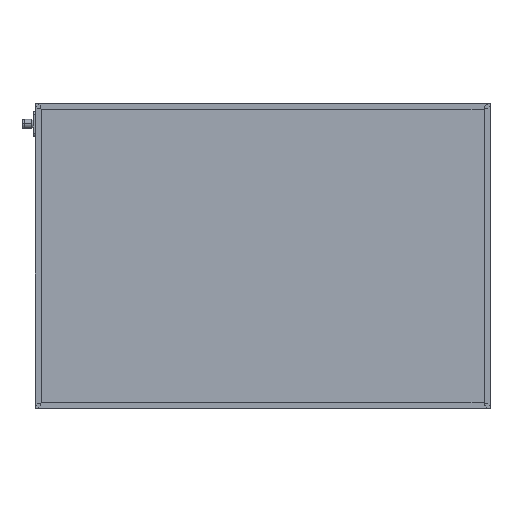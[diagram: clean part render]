
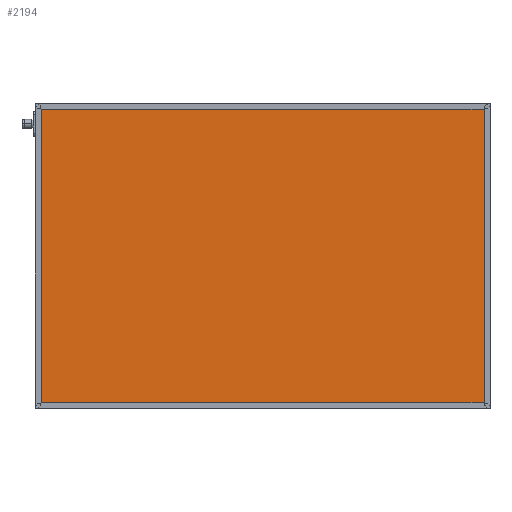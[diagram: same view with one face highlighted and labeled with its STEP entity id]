
A CAD part, top view. The second image highlights one B-rep face of the part: STEP entity #2194.
In plain terms, the highlighted planar face has unit normal (0, 0, 1).
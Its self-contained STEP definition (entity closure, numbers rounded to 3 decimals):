
#15 = EDGE_CURVE ( 'NONE', #4236, #1416, #11847, .T. ) ;
#826 = FACE_OUTER_BOUND ( 'NONE', #15232, .T. ) ;
#1115 = VECTOR ( 'NONE', #17170, 1000. ) ;
#1369 = EDGE_CURVE ( 'NONE', #6468, #16471, #4807, .T. ) ;
#1416 = VERTEX_POINT ( 'NONE', #2188 ) ;
#1486 = CARTESIAN_POINT ( 'NONE',  ( 0., 396., 41.85 ) ) ;
#2188 = CARTESIAN_POINT ( 'NONE',  ( 4., 4., 41.85 ) ) ;
#2194 = ADVANCED_FACE ( 'NONE', ( #826 ), #6290, .F. ) ;
#2873 = DIRECTION ( 'NONE',  ( -1., 0., 0. ) ) ;
#3660 = CARTESIAN_POINT ( 'NONE',  ( 4., 0., 41.85 ) ) ;
#3819 = EDGE_CURVE ( 'NONE', #1416, #6468, #6796, .T. ) ;
#4236 = VERTEX_POINT ( 'NONE', #10668 ) ;
#4807 = LINE ( 'NONE', #11912, #12268 ) ;
#4987 = DIRECTION ( 'NONE',  ( 0., 0., -1. ) ) ;
#5162 = DIRECTION ( 'NONE',  ( -1., 0., 0. ) ) ;
#6290 = PLANE ( 'NONE',  #9509 ) ;
#6468 = VERTEX_POINT ( 'NONE', #11389 ) ;
#6796 = LINE ( 'NONE', #12118, #11451 ) ;
#6947 = CARTESIAN_POINT ( 'NONE',  ( 596., 396., 41.85 ) ) ;
#8004 = LINE ( 'NONE', #1486, #9812 ) ;
#8158 = ORIENTED_EDGE ( 'NONE', *, *, #1369, .T. ) ;
#8594 = ORIENTED_EDGE ( 'NONE', *, *, #14663, .T. ) ;
#9509 = AXIS2_PLACEMENT_3D ( 'NONE', #11619, #4987, #5162 ) ;
#9812 = VECTOR ( 'NONE', #2873, 1000. ) ;
#10668 = CARTESIAN_POINT ( 'NONE',  ( 4., 396., 41.85 ) ) ;
#11389 = CARTESIAN_POINT ( 'NONE',  ( 596., 4., 41.85 ) ) ;
#11451 = VECTOR ( 'NONE', #13516, 1000. ) ;
#11619 = CARTESIAN_POINT ( 'NONE',  ( 0., 0., 41.85 ) ) ;
#11847 = LINE ( 'NONE', #3660, #1115 ) ;
#11912 = CARTESIAN_POINT ( 'NONE',  ( 596., 0., 41.85 ) ) ;
#12118 = CARTESIAN_POINT ( 'NONE',  ( 0., 4., 41.85 ) ) ;
#12268 = VECTOR ( 'NONE', #13959, 1000. ) ;
#12941 = ORIENTED_EDGE ( 'NONE', *, *, #15, .T. ) ;
#13516 = DIRECTION ( 'NONE',  ( 1., 0., 0. ) ) ;
#13959 = DIRECTION ( 'NONE',  ( 0., 1., 0. ) ) ;
#14663 = EDGE_CURVE ( 'NONE', #16471, #4236, #8004, .T. ) ;
#14724 = ORIENTED_EDGE ( 'NONE', *, *, #3819, .T. ) ;
#15232 = EDGE_LOOP ( 'NONE', ( #8158, #8594, #12941, #14724 ) ) ;
#16471 = VERTEX_POINT ( 'NONE', #6947 ) ;
#17170 = DIRECTION ( 'NONE',  ( 0., -1., 0. ) ) ;
